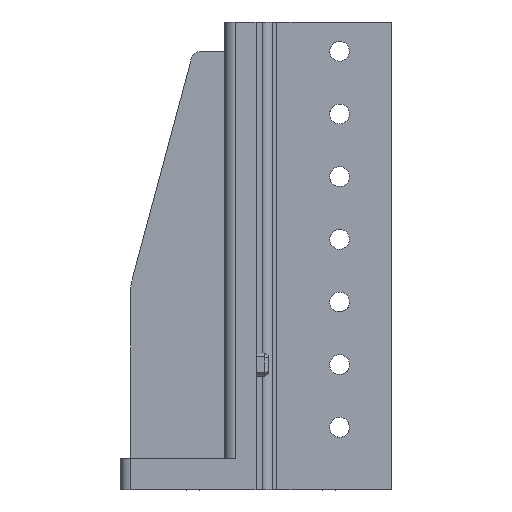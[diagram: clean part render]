
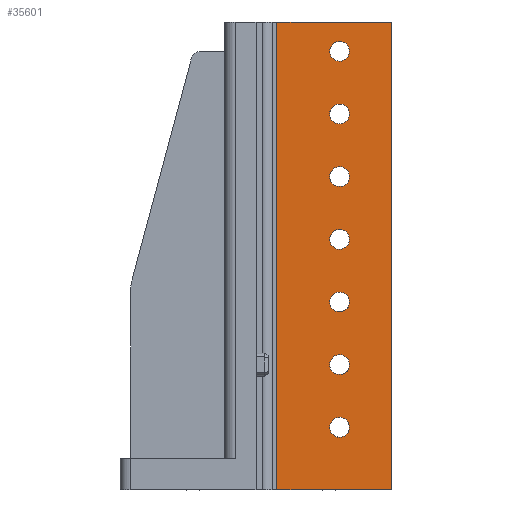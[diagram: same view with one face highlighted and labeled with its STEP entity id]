
A CAD part, left-side view. The second image highlights one B-rep face of the part: STEP entity #35601.
In plain terms, the highlighted planar face has unit normal (-1, 0, 0).
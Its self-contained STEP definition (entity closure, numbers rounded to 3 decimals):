
#30135=CARTESIAN_POINT('Vertex',(40.,30.,224.)) ;
#30138=CARTESIAN_POINT('Line Origine',(40.,2.5,224.)) ;
#30142=CARTESIAN_POINT('Vertex',(40.,-25.,224.)) ;
#30716=CARTESIAN_POINT('Line Origine',(40.,-25.,119.5)) ;
#30720=CARTESIAN_POINT('Vertex',(40.,-25.,15.)) ;
#30723=CARTESIAN_POINT('Line Origine',(40.,-25.,7.5)) ;
#30727=CARTESIAN_POINT('Vertex',(40.,-25.,0.)) ;
#35433=CARTESIAN_POINT('Vertex',(40.,30.,0.)) ;
#35436=CARTESIAN_POINT('Line Origine',(40.,30.,7.5)) ;
#35440=CARTESIAN_POINT('Vertex',(40.,30.,15.)) ;
#35443=CARTESIAN_POINT('Line Origine',(40.,30.,119.5)) ;
#35457=CARTESIAN_POINT('Axis2P3D Location',(40.,30.,0.)) ;
#35462=CARTESIAN_POINT('Line Origine',(40.,2.5,0.)) ;
#35475=CARTESIAN_POINT('Axis2P3D Location',(40.,0.,120.)) ;
#35479=CARTESIAN_POINT('Vertex',(40.,-4.169,122.277)) ;
#35481=CARTESIAN_POINT('Vertex',(40.,4.169,117.723)) ;
#35484=CARTESIAN_POINT('Axis2P3D Location',(40.,0.,120.)) ;
#35493=CARTESIAN_POINT('Axis2P3D Location',(40.,0.,30.)) ;
#35497=CARTESIAN_POINT('Vertex',(40.,4.169,27.723)) ;
#35499=CARTESIAN_POINT('Vertex',(40.,-4.169,32.277)) ;
#35502=CARTESIAN_POINT('Axis2P3D Location',(40.,0.,30.)) ;
#35511=CARTESIAN_POINT('Axis2P3D Location',(40.,0.,150.)) ;
#35515=CARTESIAN_POINT('Vertex',(40.,-4.169,152.277)) ;
#35517=CARTESIAN_POINT('Vertex',(40.,4.169,147.723)) ;
#35520=CARTESIAN_POINT('Axis2P3D Location',(40.,0.,150.)) ;
#35529=CARTESIAN_POINT('Axis2P3D Location',(40.,0.,90.)) ;
#35533=CARTESIAN_POINT('Vertex',(40.,-4.169,92.277)) ;
#35535=CARTESIAN_POINT('Vertex',(40.,4.169,87.723)) ;
#35538=CARTESIAN_POINT('Axis2P3D Location',(40.,0.,90.)) ;
#35547=CARTESIAN_POINT('Axis2P3D Location',(40.,0.,180.)) ;
#35551=CARTESIAN_POINT('Vertex',(40.,-4.169,182.277)) ;
#35553=CARTESIAN_POINT('Vertex',(40.,4.169,177.723)) ;
#35556=CARTESIAN_POINT('Axis2P3D Location',(40.,0.,180.)) ;
#35565=CARTESIAN_POINT('Axis2P3D Location',(40.,0.,60.)) ;
#35569=CARTESIAN_POINT('Vertex',(40.,-4.169,62.277)) ;
#35571=CARTESIAN_POINT('Vertex',(40.,4.169,57.723)) ;
#35574=CARTESIAN_POINT('Axis2P3D Location',(40.,0.,60.)) ;
#35583=CARTESIAN_POINT('Axis2P3D Location',(40.,0.,210.)) ;
#35587=CARTESIAN_POINT('Vertex',(40.,-4.169,212.277)) ;
#35589=CARTESIAN_POINT('Vertex',(40.,4.169,207.723)) ;
#35592=CARTESIAN_POINT('Axis2P3D Location',(40.,0.,210.)) ;
#30139=DIRECTION('Vector Direction',(0.,-1.,0.)) ;
#30717=DIRECTION('Vector Direction',(0.,0.,1.)) ;
#30724=DIRECTION('Vector Direction',(0.,0.,1.)) ;
#35437=DIRECTION('Vector Direction',(0.,0.,1.)) ;
#35444=DIRECTION('Vector Direction',(0.,0.,1.)) ;
#35458=DIRECTION('Axis2P3D Direction',(-1.,0.,0.)) ;
#35459=DIRECTION('Axis2P3D XDirection',(0.,-1.,0.)) ;
#35463=DIRECTION('Vector Direction',(0.,-1.,0.)) ;
#35476=DIRECTION('Axis2P3D Direction',(-1.,0.,0.)) ;
#35485=DIRECTION('Axis2P3D Direction',(-1.,0.,0.)) ;
#35494=DIRECTION('Axis2P3D Direction',(-1.,0.,0.)) ;
#35503=DIRECTION('Axis2P3D Direction',(-1.,0.,0.)) ;
#35512=DIRECTION('Axis2P3D Direction',(-1.,0.,0.)) ;
#35521=DIRECTION('Axis2P3D Direction',(-1.,0.,0.)) ;
#35530=DIRECTION('Axis2P3D Direction',(-1.,0.,0.)) ;
#35539=DIRECTION('Axis2P3D Direction',(-1.,0.,0.)) ;
#35548=DIRECTION('Axis2P3D Direction',(-1.,0.,0.)) ;
#35557=DIRECTION('Axis2P3D Direction',(-1.,0.,0.)) ;
#35566=DIRECTION('Axis2P3D Direction',(-1.,0.,0.)) ;
#35575=DIRECTION('Axis2P3D Direction',(-1.,0.,0.)) ;
#35584=DIRECTION('Axis2P3D Direction',(-1.,0.,0.)) ;
#35593=DIRECTION('Axis2P3D Direction',(-1.,0.,0.)) ;
#35460=AXIS2_PLACEMENT_3D('Plane Axis2P3D',#35457,#35458,#35459) ;
#35477=AXIS2_PLACEMENT_3D('Circle Axis2P3D',#35475,#35476,$) ;
#35486=AXIS2_PLACEMENT_3D('Circle Axis2P3D',#35484,#35485,$) ;
#35495=AXIS2_PLACEMENT_3D('Circle Axis2P3D',#35493,#35494,$) ;
#35504=AXIS2_PLACEMENT_3D('Circle Axis2P3D',#35502,#35503,$) ;
#35513=AXIS2_PLACEMENT_3D('Circle Axis2P3D',#35511,#35512,$) ;
#35522=AXIS2_PLACEMENT_3D('Circle Axis2P3D',#35520,#35521,$) ;
#35531=AXIS2_PLACEMENT_3D('Circle Axis2P3D',#35529,#35530,$) ;
#35540=AXIS2_PLACEMENT_3D('Circle Axis2P3D',#35538,#35539,$) ;
#35549=AXIS2_PLACEMENT_3D('Circle Axis2P3D',#35547,#35548,$) ;
#35558=AXIS2_PLACEMENT_3D('Circle Axis2P3D',#35556,#35557,$) ;
#35567=AXIS2_PLACEMENT_3D('Circle Axis2P3D',#35565,#35566,$) ;
#35576=AXIS2_PLACEMENT_3D('Circle Axis2P3D',#35574,#35575,$) ;
#35585=AXIS2_PLACEMENT_3D('Circle Axis2P3D',#35583,#35584,$) ;
#35594=AXIS2_PLACEMENT_3D('Circle Axis2P3D',#35592,#35593,$) ;
#35468=ORIENTED_EDGE('',*,*,#35447,.F.) ;
#35469=ORIENTED_EDGE('',*,*,#35442,.F.) ;
#35470=ORIENTED_EDGE('',*,*,#35466,.T.) ;
#35471=ORIENTED_EDGE('',*,*,#30729,.T.) ;
#35472=ORIENTED_EDGE('',*,*,#30722,.T.) ;
#35473=ORIENTED_EDGE('',*,*,#30144,.F.) ;
#35490=ORIENTED_EDGE('',*,*,#35483,.F.) ;
#35491=ORIENTED_EDGE('',*,*,#35488,.F.) ;
#35508=ORIENTED_EDGE('',*,*,#35501,.F.) ;
#35509=ORIENTED_EDGE('',*,*,#35506,.F.) ;
#35526=ORIENTED_EDGE('',*,*,#35519,.F.) ;
#35527=ORIENTED_EDGE('',*,*,#35524,.F.) ;
#35544=ORIENTED_EDGE('',*,*,#35537,.F.) ;
#35545=ORIENTED_EDGE('',*,*,#35542,.F.) ;
#35562=ORIENTED_EDGE('',*,*,#35555,.F.) ;
#35563=ORIENTED_EDGE('',*,*,#35560,.F.) ;
#35580=ORIENTED_EDGE('',*,*,#35573,.F.) ;
#35581=ORIENTED_EDGE('',*,*,#35578,.F.) ;
#35598=ORIENTED_EDGE('',*,*,#35591,.F.) ;
#35599=ORIENTED_EDGE('',*,*,#35596,.F.) ;
#35492=FACE_BOUND('',#35489,.T.) ;
#35510=FACE_BOUND('',#35507,.T.) ;
#35528=FACE_BOUND('',#35525,.T.) ;
#35546=FACE_BOUND('',#35543,.T.) ;
#35564=FACE_BOUND('',#35561,.T.) ;
#35582=FACE_BOUND('',#35579,.T.) ;
#35600=FACE_BOUND('',#35597,.T.) ;
#30140=VECTOR('Line Direction',#30139,1.) ;
#30718=VECTOR('Line Direction',#30717,1.) ;
#30725=VECTOR('Line Direction',#30724,1.) ;
#35438=VECTOR('Line Direction',#35437,1.) ;
#35445=VECTOR('Line Direction',#35444,1.) ;
#35464=VECTOR('Line Direction',#35463,1.) ;
#35601=ADVANCED_FACE('Winkel f. Senkr. Anbind. 8KT.-Rohr SW80 STI',(#35474,#35492,#35510,#35528,#35546,#35564,#35582,#35600),#35461,.T.) ;
#35478=CIRCLE('generated circle',#35477,4.75) ;
#35487=CIRCLE('generated circle',#35486,4.75) ;
#35496=CIRCLE('generated circle',#35495,4.75) ;
#35505=CIRCLE('generated circle',#35504,4.75) ;
#35514=CIRCLE('generated circle',#35513,4.75) ;
#35523=CIRCLE('generated circle',#35522,4.75) ;
#35532=CIRCLE('generated circle',#35531,4.75) ;
#35541=CIRCLE('generated circle',#35540,4.75) ;
#35550=CIRCLE('generated circle',#35549,4.75) ;
#35559=CIRCLE('generated circle',#35558,4.75) ;
#35568=CIRCLE('generated circle',#35567,4.75) ;
#35577=CIRCLE('generated circle',#35576,4.75) ;
#35586=CIRCLE('generated circle',#35585,4.75) ;
#35595=CIRCLE('generated circle',#35594,4.75) ;
#30144=EDGE_CURVE('',#30136,#30143,#30141,.T.) ;
#30722=EDGE_CURVE('',#30721,#30143,#30719,.T.) ;
#30729=EDGE_CURVE('',#30728,#30721,#30726,.T.) ;
#35442=EDGE_CURVE('',#35434,#35441,#35439,.T.) ;
#35447=EDGE_CURVE('',#35441,#30136,#35446,.T.) ;
#35466=EDGE_CURVE('',#35434,#30728,#35465,.T.) ;
#35483=EDGE_CURVE('',#35480,#35482,#35478,.T.) ;
#35488=EDGE_CURVE('',#35482,#35480,#35487,.T.) ;
#35501=EDGE_CURVE('',#35498,#35500,#35496,.T.) ;
#35506=EDGE_CURVE('',#35500,#35498,#35505,.T.) ;
#35519=EDGE_CURVE('',#35516,#35518,#35514,.T.) ;
#35524=EDGE_CURVE('',#35518,#35516,#35523,.T.) ;
#35537=EDGE_CURVE('',#35534,#35536,#35532,.T.) ;
#35542=EDGE_CURVE('',#35536,#35534,#35541,.T.) ;
#35555=EDGE_CURVE('',#35552,#35554,#35550,.T.) ;
#35560=EDGE_CURVE('',#35554,#35552,#35559,.T.) ;
#35573=EDGE_CURVE('',#35570,#35572,#35568,.T.) ;
#35578=EDGE_CURVE('',#35572,#35570,#35577,.T.) ;
#35591=EDGE_CURVE('',#35588,#35590,#35586,.T.) ;
#35596=EDGE_CURVE('',#35590,#35588,#35595,.T.) ;
#35467=EDGE_LOOP('',(#35468,#35469,#35470,#35471,#35472,#35473)) ;
#35489=EDGE_LOOP('',(#35490,#35491)) ;
#35507=EDGE_LOOP('',(#35508,#35509)) ;
#35525=EDGE_LOOP('',(#35526,#35527)) ;
#35543=EDGE_LOOP('',(#35544,#35545)) ;
#35561=EDGE_LOOP('',(#35562,#35563)) ;
#35579=EDGE_LOOP('',(#35580,#35581)) ;
#35597=EDGE_LOOP('',(#35598,#35599)) ;
#35474=FACE_OUTER_BOUND('',#35467,.T.) ;
#30141=LINE('Line',#30138,#30140) ;
#30719=LINE('Line',#30716,#30718) ;
#30726=LINE('Line',#30723,#30725) ;
#35439=LINE('Line',#35436,#35438) ;
#35446=LINE('Line',#35443,#35445) ;
#35465=LINE('Line',#35462,#35464) ;
#35461=PLANE('',#35460) ;
#30136=VERTEX_POINT('',#30135) ;
#30143=VERTEX_POINT('',#30142) ;
#30721=VERTEX_POINT('',#30720) ;
#30728=VERTEX_POINT('',#30727) ;
#35434=VERTEX_POINT('',#35433) ;
#35441=VERTEX_POINT('',#35440) ;
#35480=VERTEX_POINT('',#35479) ;
#35482=VERTEX_POINT('',#35481) ;
#35498=VERTEX_POINT('',#35497) ;
#35500=VERTEX_POINT('',#35499) ;
#35516=VERTEX_POINT('',#35515) ;
#35518=VERTEX_POINT('',#35517) ;
#35534=VERTEX_POINT('',#35533) ;
#35536=VERTEX_POINT('',#35535) ;
#35552=VERTEX_POINT('',#35551) ;
#35554=VERTEX_POINT('',#35553) ;
#35570=VERTEX_POINT('',#35569) ;
#35572=VERTEX_POINT('',#35571) ;
#35588=VERTEX_POINT('',#35587) ;
#35590=VERTEX_POINT('',#35589) ;
